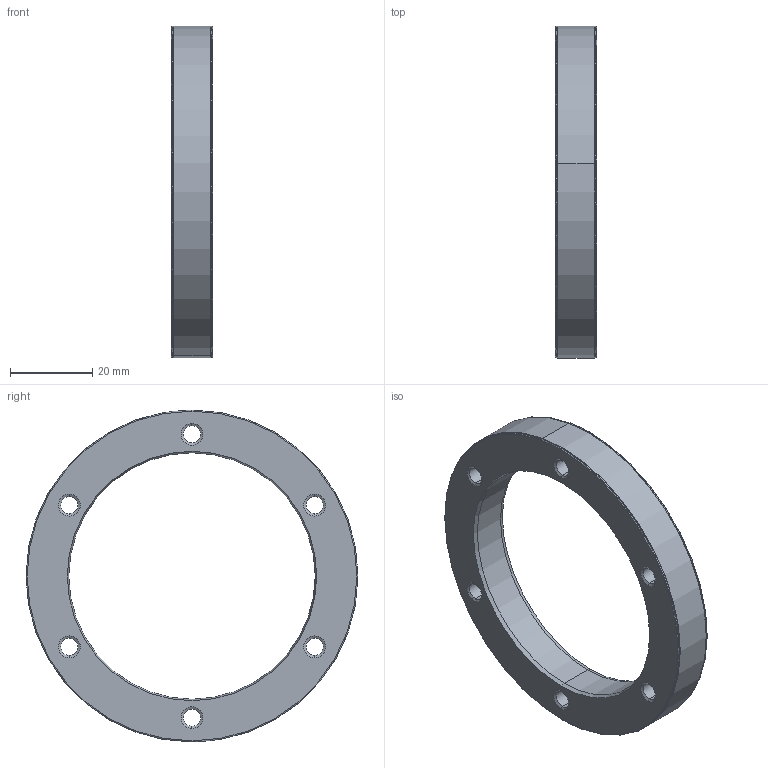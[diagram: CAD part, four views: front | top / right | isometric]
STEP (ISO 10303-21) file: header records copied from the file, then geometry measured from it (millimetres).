
FILE_DESCRIPTION (( 'STEP AP214' ), '1' );
FILE_NAME ('MR081U060.STEP', '2021-09-21T13:39:48', ( '' ), ( '' ), 'SwSTEP 2.0', 'SolidWorks 2020', '' );
FILE_SCHEMA (( 'AUTOMOTIVE_DESIGN' ));
Length unit declared in the file: millimetre
Products named in the file (1): MR081U060
Bounding box: 10 x 80.85 x 80.85 mm (x, y, z)
Volume: 22126 mm3; surface area: 9475.4 mm2
Topology: 1 solids, 1 shells, 462 faces, 1217 edges, 802 vertices
Faces by surface type: plane 251, bspline 147, cylinder 32, cone 28, torus 4
Entity records: 26063 total; most frequent: CARTESIAN_POINT 10453, ORIENTED_EDGE 2434, DIRECTION 1659, EDGE_CURVE 1217, VECTOR 819, LINE 819, VERTEX_POINT 802, EDGE_LOOP 521
